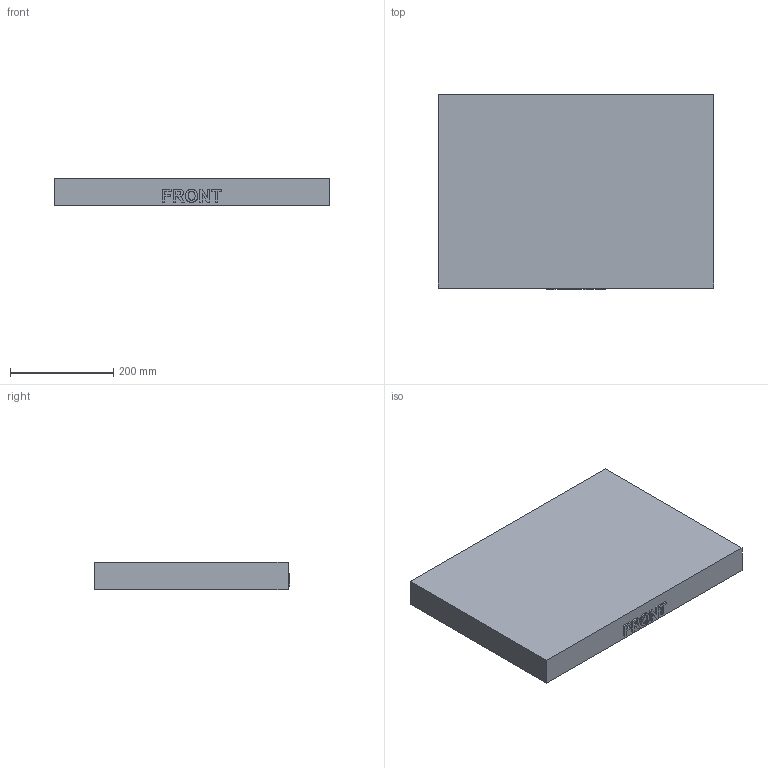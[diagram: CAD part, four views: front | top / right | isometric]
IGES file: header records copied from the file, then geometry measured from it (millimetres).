
Start section: Comment
Global section: file name: 2620-lid_internal_tub.igs; native system:  By UGS Corp.; preprocessor: XPlus GENERIC/IGES 3.0; author: Author; organization: Title; date: 20100513.114321; units: millimetre
Bounding box: 533.4 x 377.82 x 53.98 mm (x, y, z)
Surface area: 572257.7 mm2 (no closed solid volume)
Topology: 0 solids, 0 shells, 224 faces, 1285 edges, 1277 vertices
Faces by surface type: bspline 224
